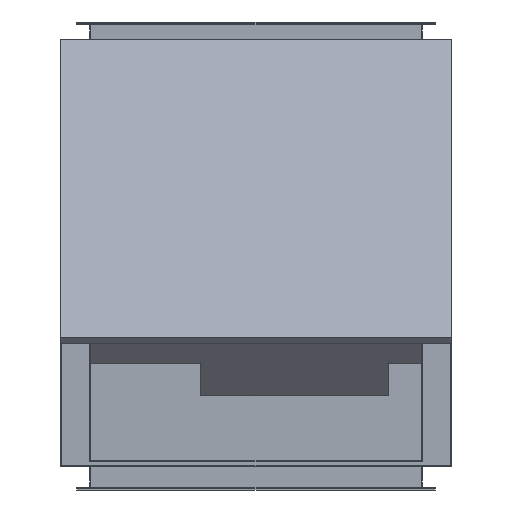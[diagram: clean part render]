
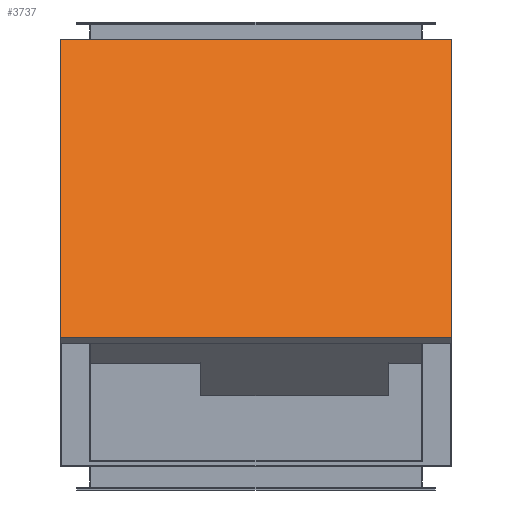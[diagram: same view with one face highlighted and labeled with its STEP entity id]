
A CAD part, front view. The second image highlights one B-rep face of the part: STEP entity #3737.
In plain terms, the highlighted planar face has unit normal (0, -0.707, 0.707).
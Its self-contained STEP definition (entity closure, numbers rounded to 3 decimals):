
#250=LINE('',#6198,#659);
#253=LINE('',#6204,#662);
#256=LINE('',#6210,#665);
#259=LINE('',#6214,#668);
#659=VECTOR('',#4588,10.);
#662=VECTOR('',#4593,10.);
#665=VECTOR('',#4598,10.);
#668=VECTOR('',#4603,10.);
#973=PLANE('',#3989);
#1241=FACE_OUTER_BOUND('',#1461,.T.);
#1461=EDGE_LOOP('',(#3088,#3089,#3090,#3091));
#1890=VERTEX_POINT('',#6195);
#1891=VERTEX_POINT('',#6197);
#1893=VERTEX_POINT('',#6203);
#1895=VERTEX_POINT('',#6209);
#2319=EDGE_CURVE('',#1891,#1890,#250,.T.);
#2322=EDGE_CURVE('',#1893,#1891,#253,.T.);
#2325=EDGE_CURVE('',#1895,#1893,#256,.T.);
#2328=EDGE_CURVE('',#1890,#1895,#259,.T.);
#3088=ORIENTED_EDGE('',*,*,#2328,.T.);
#3089=ORIENTED_EDGE('',*,*,#2325,.T.);
#3090=ORIENTED_EDGE('',*,*,#2322,.T.);
#3091=ORIENTED_EDGE('',*,*,#2319,.T.);
#3737=ADVANCED_FACE('',(#1241),#973,.T.);
#3989=AXIS2_PLACEMENT_3D('',#6216,#4606,#4607);
#4588=DIRECTION('',(0.,0.707,0.707));
#4593=DIRECTION('',(1.,0.,0.));
#4598=DIRECTION('',(0.,-0.707,-0.707));
#4603=DIRECTION('',(-1.,0.,0.));
#4606=DIRECTION('center_axis',(0.,-0.707,0.707));
#4607=DIRECTION('ref_axis',(1.,0.,0.));
#6195=CARTESIAN_POINT('',(354.,-239.107,392.107));
#6197=CARTESIAN_POINT('',(354.,-778.629,-147.416));
#6198=CARTESIAN_POINT('',(354.,-239.107,392.107));
#6203=CARTESIAN_POINT('',(-354.,-778.629,-147.416));
#6204=CARTESIAN_POINT('',(354.,-778.629,-147.416));
#6209=CARTESIAN_POINT('',(-354.,-239.107,392.107));
#6210=CARTESIAN_POINT('',(-354.,-778.629,-147.416));
#6214=CARTESIAN_POINT('',(-354.,-239.107,392.107));
#6216=CARTESIAN_POINT('Origin',(0.,-508.868,122.345));
